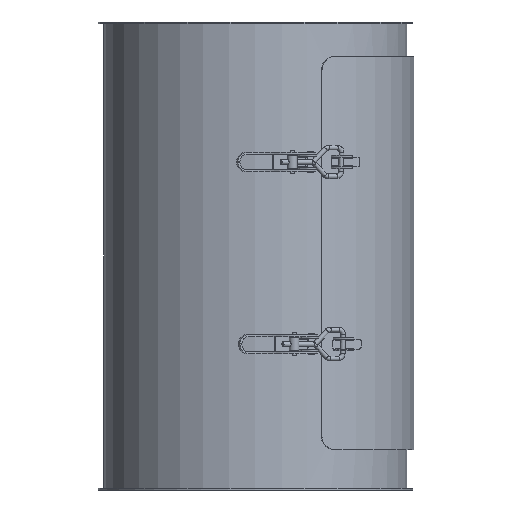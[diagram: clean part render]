
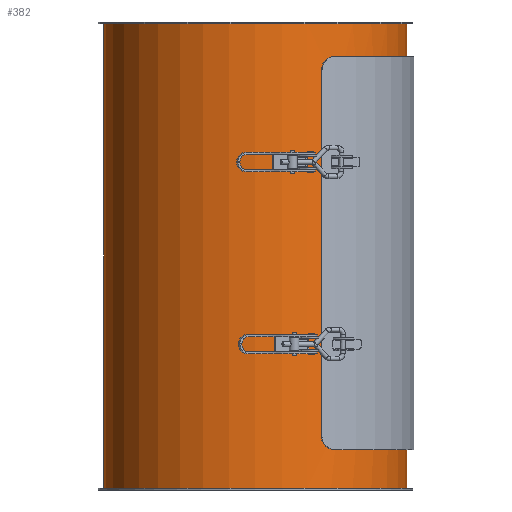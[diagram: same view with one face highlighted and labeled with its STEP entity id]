
A CAD part, left-side view. The second image highlights one B-rep face of the part: STEP entity #382.
In plain terms, the highlighted cylindrical face has radius 158 mm (diameter 316 mm), a full revolution.
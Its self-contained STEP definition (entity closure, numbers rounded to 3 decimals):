
#123=CARTESIAN_POINT('',(-132.5,-86.068,69.));
#124=VERTEX_POINT('',#123);
#131=CARTESIAN_POINT('',(132.5,-86.068,69.));
#132=VERTEX_POINT('',#131);
#133=CARTESIAN_POINT('',(0.0,0.0,69.));
#134=DIRECTION('',(0.0,0.0,-1.0));
#135=DIRECTION('',(-1.0,0.0,0.0));
#136=AXIS2_PLACEMENT_3D('',#133,#134,#135);
#137=CIRCLE('',#136,158.0);
#138=EDGE_CURVE('',#132,#124,#137,.T.);
#163=CARTESIAN_POINT('',(132.5,-86.068,419.0));
#164=VERTEX_POINT('',#163);
#165=CARTESIAN_POINT('',(132.5,-86.068,419.0));
#166=DIRECTION('',(0.0,0.0,-1.0));
#167=VECTOR('',#166,350.);
#168=LINE('',#165,#167);
#169=EDGE_CURVE('',#164,#132,#168,.T.);
#195=CARTESIAN_POINT('',(-132.5,-86.068,419.));
#196=VERTEX_POINT('',#195);
#197=CARTESIAN_POINT('',(0.0,0.0,419.));
#198=DIRECTION('',(0.0,0.0,1.0));
#199=DIRECTION('',(-1.0,0.0,0.0));
#200=AXIS2_PLACEMENT_3D('',#197,#198,#199);
#201=CIRCLE('',#200,158.0);
#202=EDGE_CURVE('',#196,#164,#201,.T.);
#225=CARTESIAN_POINT('',(-132.5,-86.068,69.));
#226=DIRECTION('',(0.0,0.0,1.0));
#227=VECTOR('',#226,350.0);
#228=LINE('',#225,#227);
#229=EDGE_CURVE('',#124,#196,#228,.T.);
#271=CARTESIAN_POINT('',(-158.0,0.,2.0));
#272=VERTEX_POINT('',#271);
#273=CARTESIAN_POINT('',(0.0,0.0,2.0));
#274=DIRECTION('',(0.0,0.0,1.0));
#275=DIRECTION('',(-1.0,0.0,0.0));
#276=AXIS2_PLACEMENT_3D('',#273,#274,#275);
#277=CIRCLE('',#276,158.0);
#278=EDGE_CURVE('',#272,#272,#277,.T.);
#319=CARTESIAN_POINT('',(158.0,0.,486.0));
#320=VERTEX_POINT('',#319);
#321=CARTESIAN_POINT('',(0.0,0.0,486.0));
#322=DIRECTION('',(0.0,0.0,-1.0));
#323=DIRECTION('',(-1.0,0.0,0.0));
#324=AXIS2_PLACEMENT_3D('',#321,#322,#323);
#325=CIRCLE('',#324,158.0);
#326=EDGE_CURVE('',#320,#320,#325,.T.);
#365=CARTESIAN_POINT('',(0.0,0.0,0.0));
#366=DIRECTION('',(0.0,0.0,1.0));
#367=DIRECTION('',(-1.0,0.0,0.0));
#368=AXIS2_PLACEMENT_3D('',#365,#366,#367);
#369=CYLINDRICAL_SURFACE('',#368,158.0);
#370=ORIENTED_EDGE('',*,*,#278,.T.);
#371=EDGE_LOOP('',(#370));
#372=FACE_OUTER_BOUND('',#371,.T.);
#373=ORIENTED_EDGE('',*,*,#202,.T.);
#374=ORIENTED_EDGE('',*,*,#169,.T.);
#375=ORIENTED_EDGE('',*,*,#138,.T.);
#376=ORIENTED_EDGE('',*,*,#229,.T.);
#377=EDGE_LOOP('',(#373,#374,#375,#376));
#378=FACE_BOUND('',#377,.T.);
#379=ORIENTED_EDGE('',*,*,#326,.T.);
#380=EDGE_LOOP('',(#379));
#381=FACE_BOUND('',#380,.T.);
#382=ADVANCED_FACE('',(#372,#378,#381),#369,.T.);
